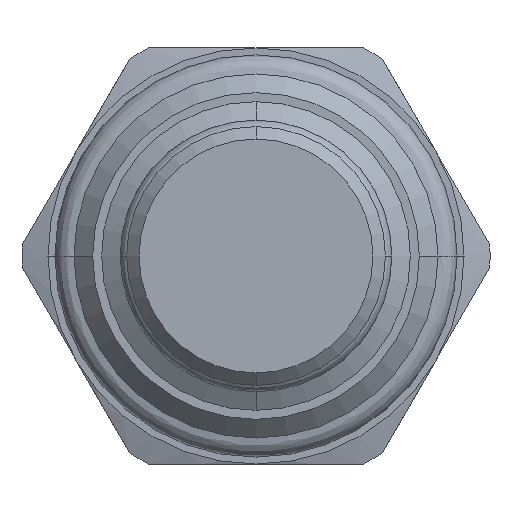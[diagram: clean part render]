
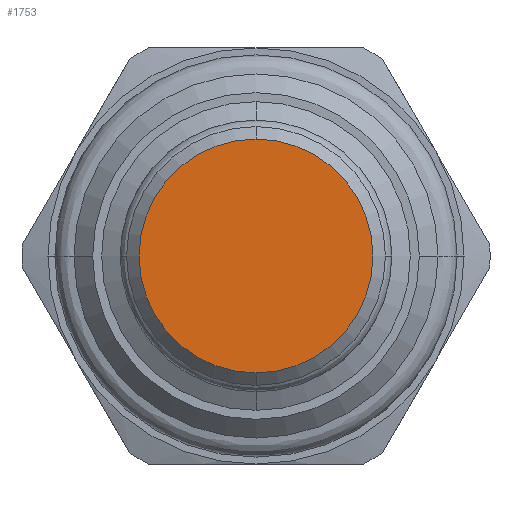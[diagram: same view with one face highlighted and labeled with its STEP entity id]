
A CAD part, front view. The second image highlights one B-rep face of the part: STEP entity #1753.
In plain terms, the highlighted planar face has unit normal (0, -1, 0).
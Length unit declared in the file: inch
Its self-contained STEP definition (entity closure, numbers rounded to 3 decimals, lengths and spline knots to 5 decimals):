
#90=CARTESIAN_POINT('',(0.,-1.25273,0.));
#91=DIRECTION('',(0.,1.,0.));
#92=DIRECTION('',(0.,0.,1.));
#93=AXIS2_PLACEMENT_3D('',#90,#91,#92);
#100=CARTESIAN_POINT('',(0.,-1.25273,0.));
#101=DIRECTION('',(0.,1.,0.));
#102=DIRECTION('',(0.,0.,-1.));
#103=AXIS2_PLACEMENT_3D('',#100,#101,#102);
#1527=CARTESIAN_POINT('',(0.,-1.25273,0.281));
#1528=CARTESIAN_POINT('',(0.,-1.25273,-0.281));
#1529=VERTEX_POINT('',#1527);
#1530=VERTEX_POINT('',#1528);
#1743=CARTESIAN_POINT('',(0.,-1.25273,0.));
#1744=DIRECTION('',(0.,-1.,0.));
#1745=DIRECTION('',(0.,0.,1.));
#1746=AXIS2_PLACEMENT_3D('',#1743,#1744,#1745);
#1747=PLANE('',#1746);
#1749=ORIENTED_EDGE('',*,*,#1748,.T.);
#1750=ORIENTED_EDGE('',*,*,#1733,.T.);
#1751=EDGE_LOOP('',(#1749,#1750));
#1752=FACE_OUTER_BOUND('',#1751,.F.);
#1753=ADVANCED_FACE('',(#1752),#1747,.T.);
#94=CIRCLE('',#93,0.281);
#104=CIRCLE('',#103,0.281);
#1733=EDGE_CURVE('',#1529,#1530,#94,.T.);
#1748=EDGE_CURVE('',#1530,#1529,#104,.T.);
